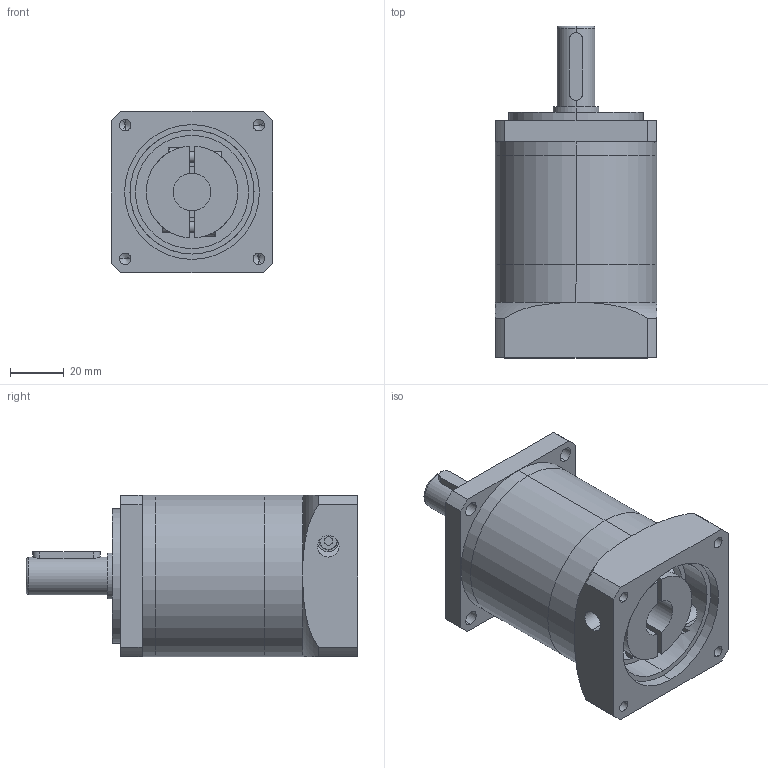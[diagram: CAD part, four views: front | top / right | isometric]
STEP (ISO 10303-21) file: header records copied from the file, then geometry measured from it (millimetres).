
FILE_DESCRIPTION (( 'STEP AP203' ), '1' );
FILE_NAME ('WPF060ﾐﾂ-L1(400W)ﾍ簟ﾎﾍｼ(14-32-50-70-M5).STEP', '2018-07-07T01:49:07', ( 'wanshsin' ), ( 'Microsoft' ), 'SwSTEP 2.0', 'SolidWorks 2014', '' );
FILE_SCHEMA (( 'CONFIG_CONTROL_DESIGN' ));
Length unit declared in the file: millimetre
Products named in the file (1): WPF060ﾐﾂ-L1(400W)ﾍ簟ﾎﾍｼ(14-32-50-70-M5)
Bounding box: 60 x 123 x 60 mm (x, y, z)
Volume: 248231.6 mm3; surface area: 49233.5 mm2
Topology: 4 solids, 4 shells, 172 faces, 402 edges, 249 vertices
Faces by surface type: cylinder 83, plane 65, cone 14, torus 10
Entity records: 5505 total; most frequent: CARTESIAN_POINT 1409, DIRECTION 890, ORIENTED_EDGE 784, EDGE_CURVE 392, AXIS2_PLACEMENT_3D 354, VERTEX_POINT 249, EDGE_LOOP 211, VECTOR 182
